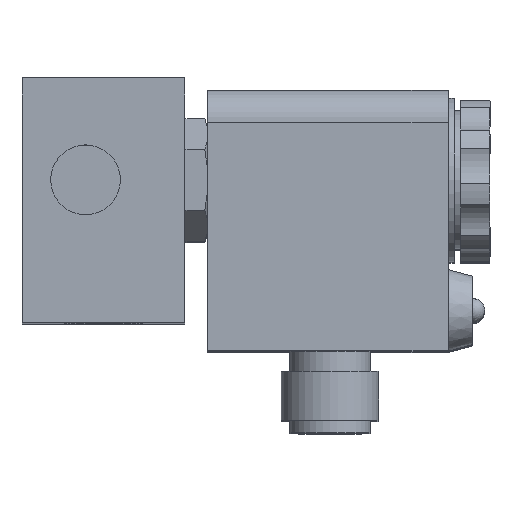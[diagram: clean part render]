
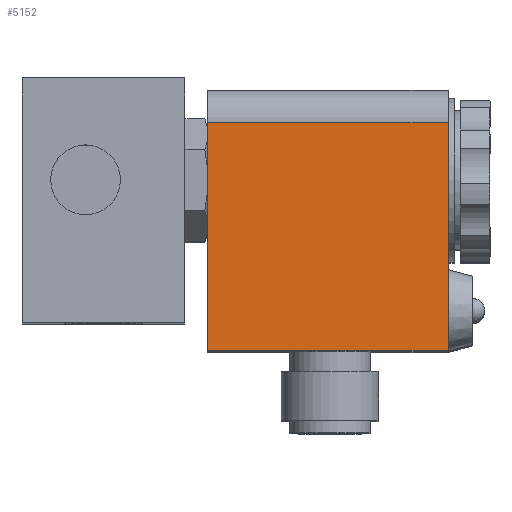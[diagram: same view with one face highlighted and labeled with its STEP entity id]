
A CAD part, top view. The second image highlights one B-rep face of the part: STEP entity #5152.
In plain terms, the highlighted planar face has unit normal (0, 0, 1) as drawn and (0, -1, 0) by its records, which use the part's own axes.
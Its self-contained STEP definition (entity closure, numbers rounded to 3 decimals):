
#1622 = CARTESIAN_POINT ( 'NONE',  ( -7., -11., 29.5 ) ) ;
#2106 = VERTEX_POINT ( 'NONE', #2398 ) ;
#2107 = VERTEX_POINT ( 'NONE', #1622 ) ;
#2294 = VERTEX_POINT ( 'NONE', #26168 ) ;
#2398 = CARTESIAN_POINT ( 'NONE',  ( 21., -11., 29.5 ) ) ;
#2647 = VERTEX_POINT ( 'NONE', #10709 ) ;
#3465 = EDGE_CURVE ( 'NONE', #2647, #2106, #9960, .T. ) ;
#3473 = EDGE_CURVE ( 'NONE', #2106, #2107, #9970, .T. ) ;
#3478 = EDGE_CURVE ( 'NONE', #2294, #2107, #9971, .T. ) ;
#3480 = EDGE_CURVE ( 'NONE', #2647, #2294, #9968, .T. ) ;
#4514 = EDGE_LOOP ( 'NONE', ( #9508, #9509, #9510, #9511 ) ) ;
#5152 = ADVANCED_FACE ( 'NONE', ( #21946 ), #20789, .T. ) ;
#9508 = ORIENTED_EDGE ( 'NONE', *, *, #3473, .T. ) ;
#9509 = ORIENTED_EDGE ( 'NONE', *, *, #3478, .F. ) ;
#9510 = ORIENTED_EDGE ( 'NONE', *, *, #3480, .F. ) ;
#9511 = ORIENTED_EDGE ( 'NONE', *, *, #3465, .T. ) ;
#9928 = VECTOR ( 'NONE', #12756, 1000. ) ;
#9960 = LINE ( 'NONE', #12755, #9928 ) ;
#9968 = LINE ( 'NONE', #12792, #9981 ) ;
#9970 = LINE ( 'NONE', #12772, #9973 ) ;
#9971 = LINE ( 'NONE', #12787, #9982 ) ;
#9973 = VECTOR ( 'NONE', #12773, 1000. ) ;
#9981 = VECTOR ( 'NONE', #12793, 1000. ) ;
#9982 = VECTOR ( 'NONE', #12788, 1000. ) ;
#10709 = CARTESIAN_POINT ( 'NONE',  ( 21., -11., 0. ) ) ;
#12755 = CARTESIAN_POINT ( 'NONE',  ( 21., -11., 0. ) ) ;
#12756 = DIRECTION ( 'NONE',  ( 0., 0., 1. ) ) ;
#12772 = CARTESIAN_POINT ( 'NONE',  ( 21., -11., 29.5 ) ) ;
#12773 = DIRECTION ( 'NONE',  ( -1., 0., 0. ) ) ;
#12787 = CARTESIAN_POINT ( 'NONE',  ( -7., -11., 0. ) ) ;
#12788 = DIRECTION ( 'NONE',  ( 0., 0., 1. ) ) ;
#12792 = CARTESIAN_POINT ( 'NONE',  ( 21., -11., 0. ) ) ;
#12793 = DIRECTION ( 'NONE',  ( -1., 0., 0. ) ) ;
#19172 = AXIS2_PLACEMENT_3D ( 'NONE', #20788, #20790, #20791 ) ;
#20788 = CARTESIAN_POINT ( 'NONE',  ( 21., -11., 0. ) ) ;
#20789 = PLANE ( 'NONE',  #19172 ) ;
#20790 = DIRECTION ( 'NONE',  ( 0., -1., 0. ) ) ;
#20791 = DIRECTION ( 'NONE',  ( 0.707, 0., 0.707 ) ) ;
#21946 = FACE_OUTER_BOUND ( 'NONE', #4514, .T. ) ;
#26168 = CARTESIAN_POINT ( 'NONE',  ( -7., -11., 0. ) ) ;
